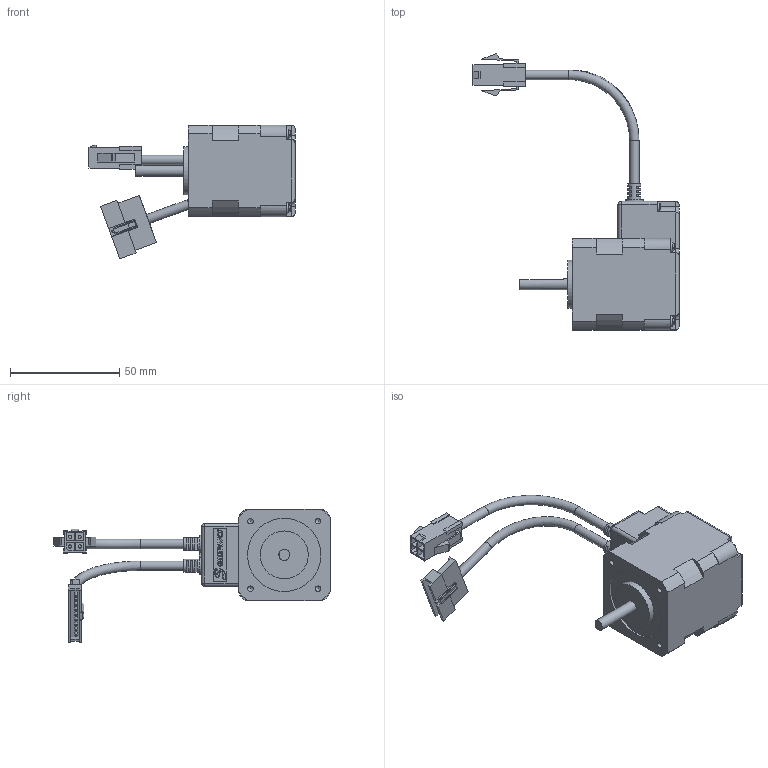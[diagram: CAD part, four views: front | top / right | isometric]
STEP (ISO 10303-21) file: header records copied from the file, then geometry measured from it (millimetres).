
FILE_DESCRIPTION(/* description */ (''),/* implementation_level */ '2;1');
FILE_NAME(/* name */ '\\EMN0D5F01\rp_inventor\RP Mechanical Design\Wiley\Updated Models\eCLM-S171F.stp',/* time_stamp */ '2016-10-27T15:35:25-07:00',/* author */ ('JDB'),/* organization */ ('Parker Hannifin Corp'),/* preprocessor_version */ 'ST-DEVELOPER v15.2',/* originating_system */ 'Autodesk Inventor 2014',/* authorisation */ '');
FILE_SCHEMA (('CONFIG_CONTROL_DESIGN'));
Products named in the file (1): eCLM-S171F_sw
Bounding box: 94.5 x 126.61 x 61.35 mm (x, y, z)
Volume: 78909.6 mm3; surface area: 30171.2 mm2
Topology: 3 solids, 3 shells, 3796 faces, 11089 edges, 7361 vertices
Faces by surface type: plane 3573, cylinder 123, bspline 44, cone 40, sphere 8, torus 8
Full cylindrical faces by diameter (mm): 1 x9, 1.5 x4, 1.6 x4, 2.1 x4, 2.3 x2, 2.5 x4, 4 x5, 4.3 x4, 5 x2, 6 x4, 8 x2, 9.2 x1, 17.5 x1, 22 x1, 33.6 x1
Entity records: 123165 total; most frequent: CARTESIAN_POINT 23049, ORIENTED_EDGE 21960, DIRECTION 18809, EDGE_CURVE 10978, LINE 10377, VECTOR 10377, VERTEX_POINT 7324, AXIS2_PLACEMENT_3D 4216
